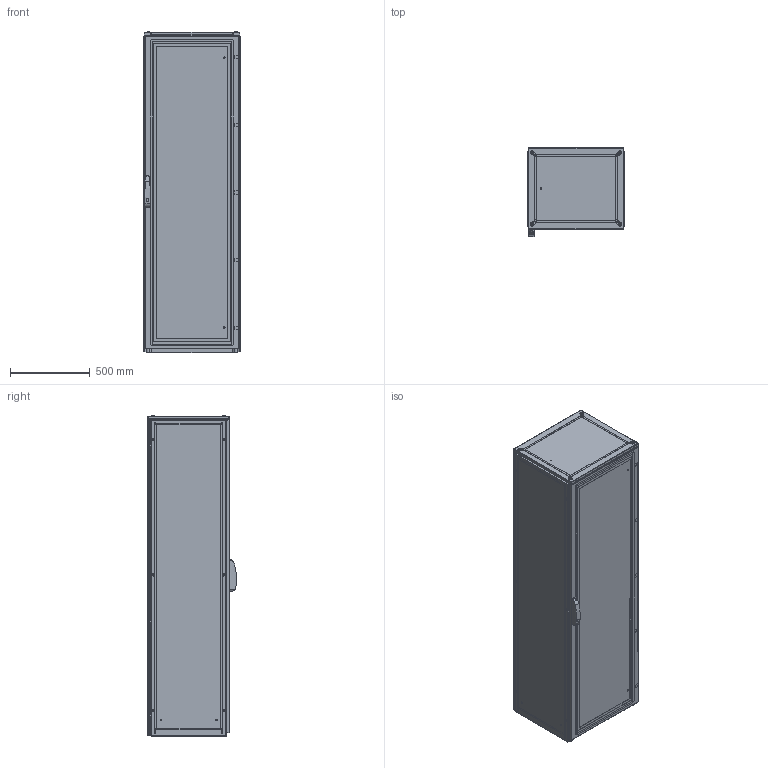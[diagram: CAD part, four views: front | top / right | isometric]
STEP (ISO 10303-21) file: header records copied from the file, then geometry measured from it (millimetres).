
FILE_DESCRIPTION(/* description */ ('STEP AP214'),/* implementation_level */ '2;1');
FILE_NAME(/* name */ 'ENUX062005PR-LOD350',/* time_stamp */ '2025-08-05T13:18:36+02:00',/* author */ ('License CC BY-ND 4.0'),/* organization */ ('CADENAS'),/* preprocessor_version */ 'ST-DEVELOPER v19.3',/* originating_system */ 'PARTsolutions',/* authorisation */ ' ');
FILE_SCHEMA (('AUTOMOTIVE_DESIGN {1 0 10303 214 3 1 1}'));
Length unit declared in the file: millimetre
Products named in the file (10): ENUX062005PR-LOD350; ENUX062005PR-LOD350_CON; ENUX062005PR-LOD350_floor1; ENUX062005PR-LOD350_floor2; Screw M12x30 architecture 350; ENUX062005PR-LOD350_side; ENUX062005PR-LOD350_top; ENUX062005PR-LOD350_back_door; ENUX062005PR-LOD350_door; ENUX062005PR-LOD350_handle
Assembly tree (15 placements, depth 2):
  ENUX062005PR-LOD350
    ENUX062005PR-LOD350_CON
    ENUX062005PR-LOD350_floor1  x2
    ENUX062005PR-LOD350_floor2  x2
    Screw M12x30 architecture 350  x4
    ENUX062005PR-LOD350_side  x2
    ENUX062005PR-LOD350_top
    ENUX062005PR-LOD350_back_door
    ENUX062005PR-LOD350_door
    ENUX062005PR-LOD350_handle
Bounding box: 612 x 557 x 2014.1 mm (x, y, z)
Volume: 17963599.6 mm3; surface area: 15549325.5 mm2
Topology: 15 solids, 15 shells, 1750 faces, 4923 edges, 3212 vertices
Faces by surface type: plane 864, cylinder 721, cone 77, torus 72, sphere 16
Full cylindrical faces by diameter (mm): 4.5 x132, 6 x14, 6.8 x8, 9 x9, 12 x16, 13 x4, 18 x1, 21 x4
Entity records: 47403 total; most frequent: CARTESIAN_POINT 8210, DIRECTION 8207, ORIENTED_EDGE 7704, EDGE_CURVE 3852, AXIS2_PLACEMENT_3D 2931, VERTEX_POINT 2693, LINE 2345, VECTOR 2345
